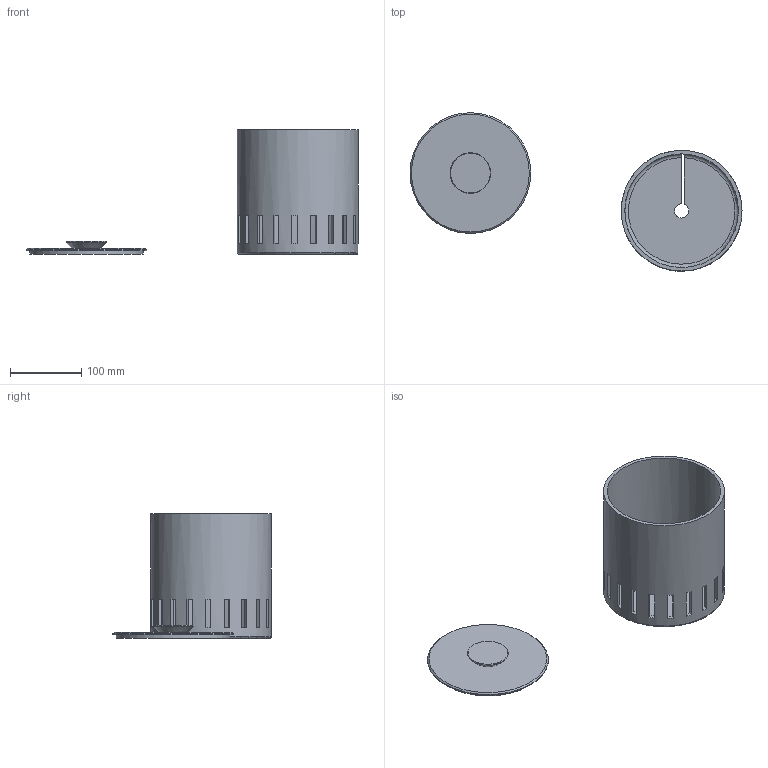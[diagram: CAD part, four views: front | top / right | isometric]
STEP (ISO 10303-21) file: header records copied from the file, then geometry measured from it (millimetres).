
FILE_DESCRIPTION(/* description */ ('STEP AP242 Edition 2','CAx-IF Rec.Pracs.---Representation and Presentation of Product Manufacturing Information (PMI)---4.0---2014-10-13','CAx-IF Rec.Pracs.---3D Tessellated Geometry---0.4---2014-09-14','2;1','CAx-IF Rec.Pracs.---User Defined Attributes---1.5---2016-08-15'),/* implementation_level */ '2;1');
FILE_NAME(/* name */ 'Part Studio 1',/* time_stamp */ '2026-06-09T20:08:16Z',/* author */ (''),/* organization */ (''),/* preprocessor_version */ 'ST-DEVELOPER v20',/* originating_system */ 'ONSHAPE BY PTC INC, 1.216',/* authorisation */ ' ');
FILE_SCHEMA (('AP242_MANAGED_MODEL_BASED_3D_ENGINEERING_MIM_LF { 1 0 10303 442 3 1 4 }'));
Length unit declared in the file: metre
Products named in the file (2): Part 2; Part 1
Bounding box: 467.35 x 223.24 x 175 mm (x, y, z)
Volume: 707786.2 mm3; surface area: 271606.8 mm2
Topology: 2 solids, 2 shells, 98 faces, 278 edges, 184 vertices
Faces by surface type: plane 88, cylinder 5, cone 3, torus 2
Full cylindrical faces by diameter (mm): 159.7 x1, 160 x1, 170 x2
Entity records: 3282 total; most frequent: DIRECTION 564, CARTESIAN_POINT 558, ORIENTED_EDGE 536, EDGE_CURVE 268, AXIS2_PLACEMENT_3D 198, VERTEX_POINT 182, LINE 168, VECTOR 168
